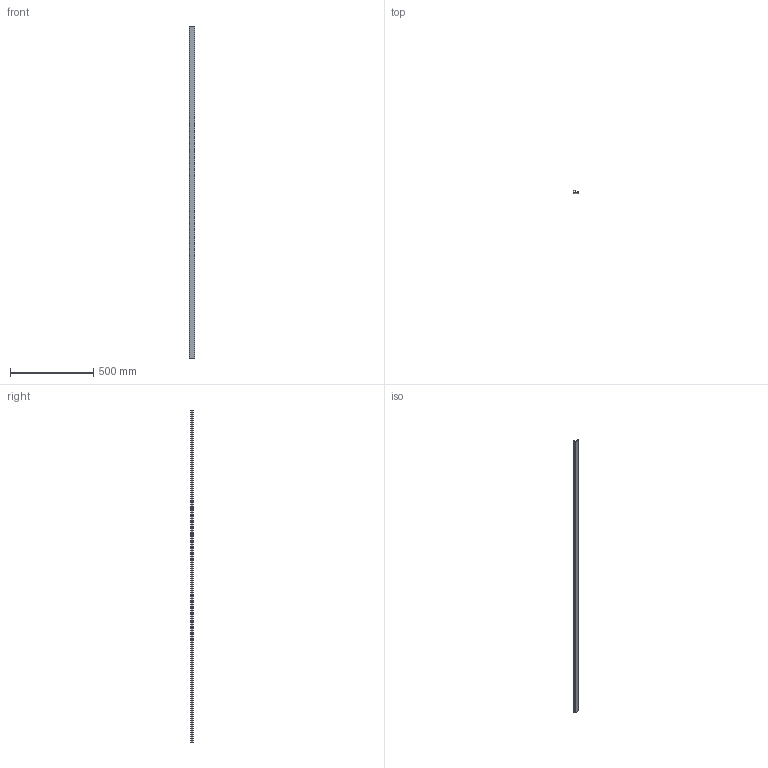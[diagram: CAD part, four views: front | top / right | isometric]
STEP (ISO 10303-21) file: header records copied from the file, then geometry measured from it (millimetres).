
FILE_DESCRIPTION((''),'1');
FILE_NAME('1','2001-04-18T',('jlue'),(''),'PRO/ENGINEER BY PARAMETRIC TECHNOLOGY CORPORATION, 9846','PRO/ENGINEER BY PARAMETRIC TECHNOLOGY CORPORATION, 9846','');
FILE_SCHEMA(('CONFIG_CONTROL_DESIGN'));
Length unit declared in the file: inch
Products named in the file (1): 1
Bounding box: 32 x 14.99 x 2000 mm (x, y, z)
Surface area: 259119.9 mm2 (no closed solid volume)
Topology: 0 solids, 0 shells, 22 faces, 120 edges, 120 vertices
Faces by surface type: plane 14, cylinder 8
Entity records: 636 total; most frequent: DIRECTION 120, COMPOSITE_CURVE_SEGMENT 120, CARTESIAN_POINT 82, TRIMMED_CURVE 60, VECTOR 44, LINE 44, AXIS2_PLACEMENT_3D 38, CURVE_BOUNDED_SURFACE 22
